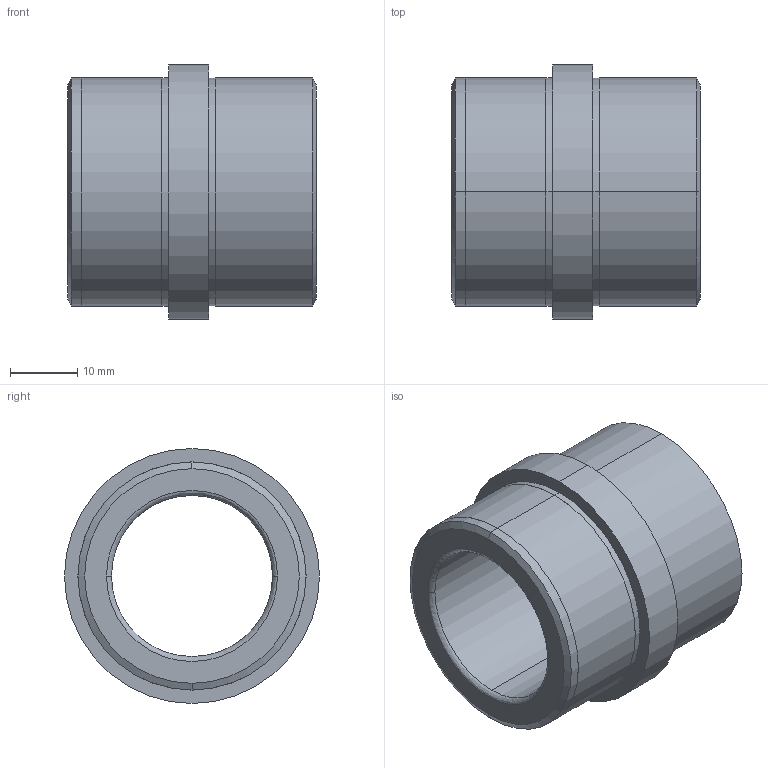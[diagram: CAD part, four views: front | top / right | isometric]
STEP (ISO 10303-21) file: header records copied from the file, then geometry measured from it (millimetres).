
FILE_DESCRIPTION (( 'STEP AP214' ), '1' );
FILE_NAME ('D22_24x21.step', '2011-12-26T21:33:27', ( 'Dell' ), ( '' ), 'SwSTEP 2.0', 'SolidWorks 2010', '' );
FILE_SCHEMA (( 'AUTOMOTIVE_DESIGN' ));
Length unit declared in the file: millimetre
Products named in the file (1): D22_24x21
Bounding box: 37 x 38 x 38 mm (x, y, z)
Volume: 18150.2 mm3; surface area: 8050.6 mm2
Topology: 1 solids, 1 shells, 29 faces, 62 edges, 40 vertices
Faces by surface type: cylinder 14, plane 7, bspline 4, cone 4
Entity records: 890 total; most frequent: CARTESIAN_POINT 204, DIRECTION 150, ORIENTED_EDGE 124, AXIS2_PLACEMENT_3D 66, EDGE_CURVE 62, VERTEX_POINT 40, CIRCLE 40, EDGE_LOOP 36
